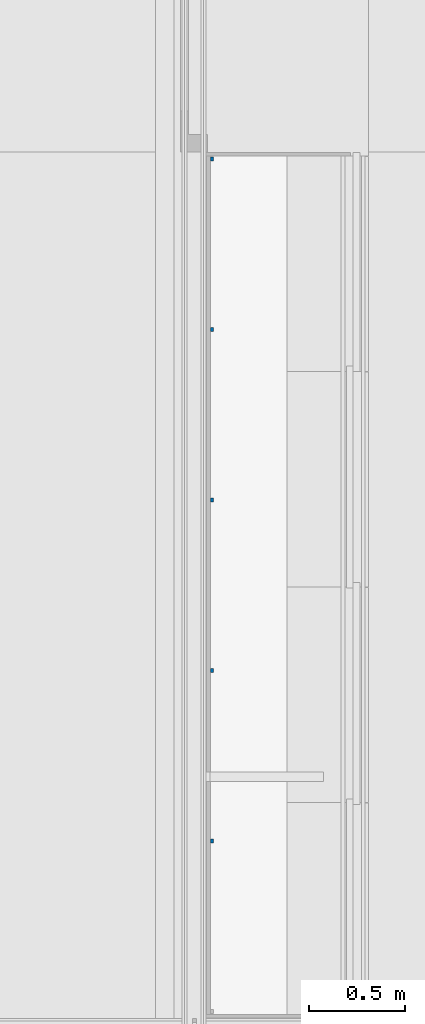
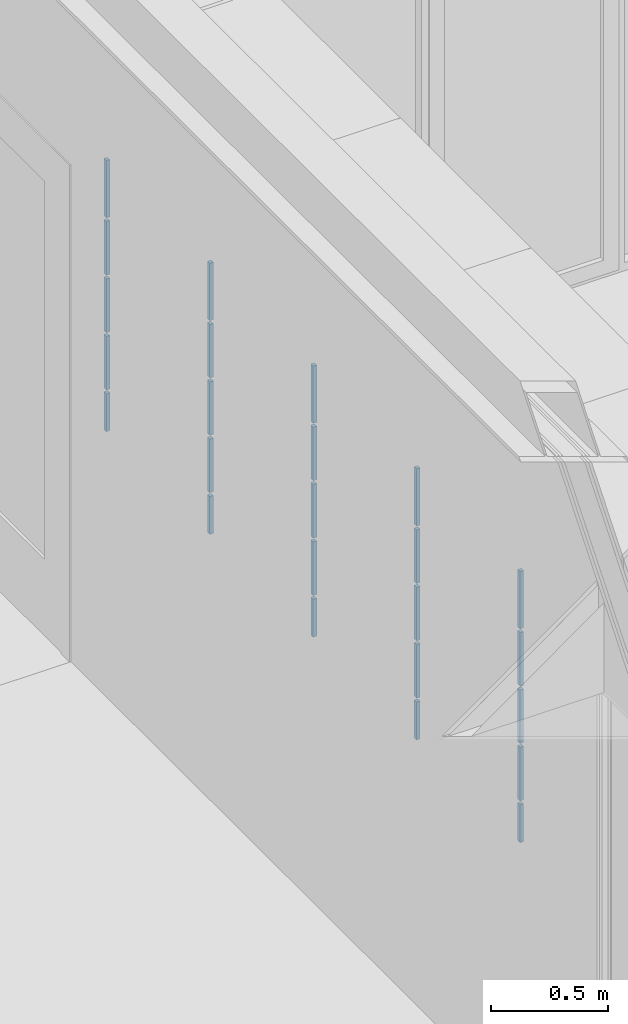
# One storey, part 7 of 165: 5 columns.
"""IFC2X3 building model written with IfcOpenShell, lengths in millimetres."""

from ifc_helpers import new_model, entity, si_unit, converted_unit, derived_unit, money_unit, direction, frame, origin_with_axes, place, context, subcontext, project, spatial, faceted_brep, material, type_object, element, save


model = new_model("IFC2X3")

# Units and contexts
model_context = context("Model", 3, precision=0.01, world=origin_with_axes(), true_north=direction((0.0, 1.0)))
body_context = subcontext(model_context, "Body", "Model", "MODEL_VIEW")
ifc_project = project(units=[si_unit("LENGTHUNIT", "METRE", prefix="MILLI"), si_unit("AREAUNIT", "SQUARE_METRE"), si_unit("VOLUMEUNIT", "CUBIC_METRE"), converted_unit("PLANEANGLEUNIT", "DEGREE", entity("IfcPlaneAngleMeasure", 0.0174532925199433), si_unit("PLANEANGLEUNIT", "RADIAN"), dimensions=[0, 0, 0, 0, 0, 0, 0]), money_unit("EUR"), converted_unit("TIMEUNIT", "Year", entity("IfcTimeMeasure", 31556926.0), si_unit("TIMEUNIT", "SECOND"), dimensions=[0, 0, 1, 0, 0, 0, 0]), si_unit("MASSUNIT", "GRAM", prefix="KILO"), si_unit("THERMODYNAMICTEMPERATUREUNIT", "DEGREE_CELSIUS"), si_unit("LUMINOUSINTENSITYUNIT", "LUMEN"), si_unit("ENERGYUNIT", "JOULE", prefix="MEGA"), derived_unit("THERMALCONDUCTANCEUNIT", [(si_unit("POWERUNIT", "WATT"), 1), (si_unit("LENGTHUNIT", "METRE"), -1), (si_unit("THERMODYNAMICTEMPERATUREUNIT", "KELVIN"), -1)]), derived_unit("SPECIFICHEATCAPACITYUNIT", [(si_unit("ENERGYUNIT", "JOULE"), 1), (si_unit("MASSUNIT", "GRAM", prefix="KILO"), -1), (si_unit("THERMODYNAMICTEMPERATUREUNIT", "KELVIN"), -1)]), derived_unit("MASSDENSITYUNIT", [(si_unit("MASSUNIT", "GRAM", prefix="KILO"), 1), (si_unit("VOLUMEUNIT", "CUBIC_METRE"), -1)])], contexts=[model_context])

# Site, building, storey
site_placement = place(None, origin_with_axes())
site = spatial("IfcSite", under=ifc_project, at=site_placement, Name="Site", CompositionType="ELEMENT")
building_placement = place(site_placement, origin_with_axes())
building = spatial("IfcBuilding", under=site, at=building_placement, Name="Naam gebouw", CompositionType="ELEMENT")
storey_placement = place(building_placement, origin_with_axes())
storey = spatial("IfcBuildingStorey", under=building, at=storey_placement, Name="Begane grond", CompositionType="ELEMENT", Elevation=0.0)

# Columns
ifc_material = material(Name="ALG - ALGEMEEN")
column_type = type_object("IfcColumnType", Name="ALG - ALGEMEEN 20 x 20", PredefinedType="COLUMN")
column_1_placement = place(storey_placement, frame((17792.49942456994, 25134.99984707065, 1182.0), z_axis=(0.0, 0.0, 1.0), x_axis=(1.0, 0.0, 0.0)))
element("IfcColumn", 1, at=column_1_placement, inside=storey, type_object=column_type, material=ifc_material, Name="28_Kolom-x", ObjectType="COLUMN", context=body_context, shape_type="Brep", body=[
    faceted_brep([(-8.000000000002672, 9.99999999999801, 0.0), (-8.000000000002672, 9.99999999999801, 197.9999999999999), (9.99999999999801, 9.99999999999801, 197.9999999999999), (9.99999999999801, 9.99999999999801, 0.0), (-8.000000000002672, -10.00000000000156, 0.0), (-8.000000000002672, -10.00000000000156, 197.9999999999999), (9.99999999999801, -10.00000000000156, 197.9999999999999), (9.99999999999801, -10.00000000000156, 0.0)], [[[0, 1, 2, 3]], [[4, 5, 1, 0]], [[5, 6, 2, 1]], [[3, 2, 6, 7]], [[3, 7, 4, 0]], [[7, 6, 5, 4]]]),
    faceted_brep([(9.99999999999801, -10.00000000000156, 1418.0), (9.99999999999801, -10.00000000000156, 1118.0), (9.99999999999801, 9.99999999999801, 1118.0), (9.99999999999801, 9.99999999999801, 1418.0), (-8.000000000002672, -10.00000000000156, 1418.0), (-8.000000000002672, -10.00000000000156, 1118.0), (-8.000000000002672, 9.99999999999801, 1118.0), (-8.000000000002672, 9.99999999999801, 1418.0)], [[[0, 1, 2, 3]], [[4, 5, 1, 0]], [[5, 6, 2, 1]], [[3, 2, 6, 7]], [[0, 3, 7, 4]], [[7, 6, 5, 4]]]),
    faceted_brep([(9.99999999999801, -10.00000000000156, 1098.0), (9.99999999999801, -10.00000000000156, 818.0000000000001), (9.99999999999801, 9.99999999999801, 818.0000000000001), (9.99999999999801, 9.99999999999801, 1098.0), (-8.000000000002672, -10.00000000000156, 1098.0), (-8.000000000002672, -10.00000000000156, 818.0000000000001), (-8.000000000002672, 9.99999999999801, 818.0000000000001), (-8.000000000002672, 9.99999999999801, 1098.0)], [[[0, 1, 2, 3]], [[4, 5, 1, 0]], [[5, 6, 2, 1]], [[3, 2, 6, 7]], [[4, 0, 3, 7]], [[7, 6, 5, 4]]]),
    faceted_brep([(9.99999999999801, -10.00000000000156, 798.0), (9.99999999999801, -10.00000000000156, 518.0), (9.99999999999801, 9.99999999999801, 518.0), (9.99999999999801, 9.99999999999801, 798.0), (-8.000000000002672, -10.00000000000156, 798.0), (-8.000000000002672, -10.00000000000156, 518.0), (-8.000000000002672, 9.99999999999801, 518.0), (-8.000000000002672, 9.99999999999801, 798.0)], [[[0, 1, 2, 3]], [[4, 5, 1, 0]], [[5, 6, 2, 1]], [[3, 2, 6, 7]], [[4, 0, 3, 7]], [[7, 6, 5, 4]]]),
    faceted_brep([(9.99999999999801, -10.00000000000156, 498.0), (9.99999999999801, -10.00000000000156, 218.0), (9.99999999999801, 9.99999999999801, 218.0), (9.99999999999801, 9.99999999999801, 498.0), (-8.000000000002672, -10.00000000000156, 498.0), (-8.000000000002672, -10.00000000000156, 218.0), (-8.000000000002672, 9.99999999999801, 218.0), (-8.000000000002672, 9.99999999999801, 498.0)], [[[0, 1, 2, 3]], [[4, 5, 1, 0]], [[5, 6, 2, 1]], [[3, 2, 6, 7]], [[4, 0, 3, 7]], [[7, 6, 5, 4]]]),
])
column_2_placement = place(storey_placement, frame((17792.49942456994, 26020.99984707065, 1182.0), z_axis=(0.0, 0.0, 1.0), x_axis=(1.0, 0.0, 0.0)))
element("IfcColumn", 2, at=column_2_placement, inside=storey, type_object=column_type, material=ifc_material, Name="28_Kolom-x", ObjectType="COLUMN", context=body_context, shape_type="Brep", body=[
    faceted_brep([(-8.000000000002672, 9.99999999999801, 0.0), (-8.000000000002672, 9.99999999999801, 197.9999999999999), (9.99999999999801, 9.99999999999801, 197.9999999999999), (9.99999999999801, 9.99999999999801, 0.0), (-8.000000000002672, -10.00000000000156, 0.0), (-8.000000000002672, -10.00000000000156, 197.9999999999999), (9.99999999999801, -10.00000000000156, 197.9999999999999), (9.99999999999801, -10.00000000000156, 0.0)], [[[0, 1, 2, 3]], [[4, 5, 1, 0]], [[5, 6, 2, 1]], [[3, 2, 6, 7]], [[3, 7, 4, 0]], [[7, 6, 5, 4]]]),
    faceted_brep([(9.99999999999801, -10.00000000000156, 1418.0), (9.99999999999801, -10.00000000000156, 1118.0), (9.99999999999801, 9.99999999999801, 1118.0), (9.99999999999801, 9.99999999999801, 1418.0), (-8.000000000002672, -10.00000000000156, 1418.0), (-8.000000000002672, -10.00000000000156, 1118.0), (-8.000000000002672, 9.99999999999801, 1118.0), (-8.000000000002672, 9.99999999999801, 1418.0)], [[[0, 1, 2, 3]], [[4, 5, 1, 0]], [[5, 6, 2, 1]], [[3, 2, 6, 7]], [[0, 3, 7, 4]], [[7, 6, 5, 4]]]),
    faceted_brep([(9.99999999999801, -10.00000000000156, 1098.0), (9.99999999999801, -10.00000000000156, 818.0000000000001), (9.99999999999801, 9.99999999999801, 818.0000000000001), (9.99999999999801, 9.99999999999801, 1098.0), (-8.000000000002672, -10.00000000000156, 1098.0), (-8.000000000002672, -10.00000000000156, 818.0000000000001), (-8.000000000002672, 9.99999999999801, 818.0000000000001), (-8.000000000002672, 9.99999999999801, 1098.0)], [[[0, 1, 2, 3]], [[4, 5, 1, 0]], [[5, 6, 2, 1]], [[3, 2, 6, 7]], [[4, 0, 3, 7]], [[7, 6, 5, 4]]]),
    faceted_brep([(9.99999999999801, -10.00000000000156, 798.0), (9.99999999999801, -10.00000000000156, 518.0), (9.99999999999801, 9.99999999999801, 518.0), (9.99999999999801, 9.99999999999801, 798.0), (-8.000000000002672, -10.00000000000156, 798.0), (-8.000000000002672, -10.00000000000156, 518.0), (-8.000000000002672, 9.99999999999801, 518.0), (-8.000000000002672, 9.99999999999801, 798.0)], [[[0, 1, 2, 3]], [[4, 5, 1, 0]], [[5, 6, 2, 1]], [[3, 2, 6, 7]], [[4, 0, 3, 7]], [[7, 6, 5, 4]]]),
    faceted_brep([(9.99999999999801, -10.00000000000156, 498.0), (9.99999999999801, -10.00000000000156, 218.0), (9.99999999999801, 9.99999999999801, 218.0), (9.99999999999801, 9.99999999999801, 498.0), (-8.000000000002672, -10.00000000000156, 498.0), (-8.000000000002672, -10.00000000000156, 218.0), (-8.000000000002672, 9.99999999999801, 218.0), (-8.000000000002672, 9.99999999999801, 498.0)], [[[0, 1, 2, 3]], [[4, 5, 1, 0]], [[5, 6, 2, 1]], [[3, 2, 6, 7]], [[4, 0, 3, 7]], [[7, 6, 5, 4]]]),
])
column_3_placement = place(storey_placement, frame((17792.49942456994, 26906.99984707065, 1182.0), z_axis=(0.0, 0.0, 1.0), x_axis=(1.0, 0.0, 0.0)))
element("IfcColumn", 3, at=column_3_placement, inside=storey, type_object=column_type, material=ifc_material, Name="28_Kolom-x", ObjectType="COLUMN", context=body_context, shape_type="Brep", body=[
    faceted_brep([(-8.000000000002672, 9.99999999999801, 0.0), (-8.000000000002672, 9.99999999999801, 197.9999999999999), (9.99999999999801, 9.99999999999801, 197.9999999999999), (9.99999999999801, 9.99999999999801, 0.0), (-8.000000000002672, -10.00000000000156, 0.0), (-8.000000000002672, -10.00000000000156, 197.9999999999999), (9.99999999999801, -10.00000000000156, 197.9999999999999), (9.99999999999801, -10.00000000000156, 0.0)], [[[0, 1, 2, 3]], [[4, 5, 1, 0]], [[5, 6, 2, 1]], [[3, 2, 6, 7]], [[3, 7, 4, 0]], [[7, 6, 5, 4]]]),
    faceted_brep([(9.99999999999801, -10.00000000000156, 1418.0), (9.99999999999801, -10.00000000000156, 1118.0), (9.99999999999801, 9.99999999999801, 1118.0), (9.99999999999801, 9.99999999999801, 1418.0), (-8.000000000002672, -10.00000000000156, 1418.0), (-8.000000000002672, -10.00000000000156, 1118.0), (-8.000000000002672, 9.99999999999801, 1118.0), (-8.000000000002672, 9.99999999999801, 1418.0)], [[[0, 1, 2, 3]], [[4, 5, 1, 0]], [[5, 6, 2, 1]], [[3, 2, 6, 7]], [[0, 3, 7, 4]], [[7, 6, 5, 4]]]),
    faceted_brep([(9.99999999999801, -10.00000000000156, 1098.0), (9.99999999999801, -10.00000000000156, 818.0000000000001), (9.99999999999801, 9.99999999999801, 818.0000000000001), (9.99999999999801, 9.99999999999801, 1098.0), (-8.000000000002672, -10.00000000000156, 1098.0), (-8.000000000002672, -10.00000000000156, 818.0000000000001), (-8.000000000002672, 9.99999999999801, 818.0000000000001), (-8.000000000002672, 9.99999999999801, 1098.0)], [[[0, 1, 2, 3]], [[4, 5, 1, 0]], [[5, 6, 2, 1]], [[3, 2, 6, 7]], [[4, 0, 3, 7]], [[7, 6, 5, 4]]]),
    faceted_brep([(9.99999999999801, -10.00000000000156, 798.0), (9.99999999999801, -10.00000000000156, 518.0), (9.99999999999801, 9.99999999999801, 518.0), (9.99999999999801, 9.99999999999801, 798.0), (-8.000000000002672, -10.00000000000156, 798.0), (-8.000000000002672, -10.00000000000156, 518.0), (-8.000000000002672, 9.99999999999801, 518.0), (-8.000000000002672, 9.99999999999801, 798.0)], [[[0, 1, 2, 3]], [[4, 5, 1, 0]], [[5, 6, 2, 1]], [[3, 2, 6, 7]], [[4, 0, 3, 7]], [[7, 6, 5, 4]]]),
    faceted_brep([(9.99999999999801, -10.00000000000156, 498.0), (9.99999999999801, -10.00000000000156, 218.0), (9.99999999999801, 9.99999999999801, 218.0), (9.99999999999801, 9.99999999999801, 498.0), (-8.000000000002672, -10.00000000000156, 498.0), (-8.000000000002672, -10.00000000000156, 218.0), (-8.000000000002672, 9.99999999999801, 218.0), (-8.000000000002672, 9.99999999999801, 498.0)], [[[0, 1, 2, 3]], [[4, 5, 1, 0]], [[5, 6, 2, 1]], [[3, 2, 6, 7]], [[4, 0, 3, 7]], [[7, 6, 5, 4]]]),
])
column_4_placement = place(storey_placement, frame((17792.49942456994, 27792.99984707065, 1182.0), z_axis=(0.0, 0.0, 1.0), x_axis=(1.0, 0.0, 0.0)))
element("IfcColumn", 4, at=column_4_placement, inside=storey, type_object=column_type, material=ifc_material, Name="28_Kolom-x", ObjectType="COLUMN", context=body_context, shape_type="Brep", body=[
    faceted_brep([(-8.000000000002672, 9.99999999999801, 0.0), (-8.000000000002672, 9.99999999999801, 197.9999999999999), (9.99999999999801, 9.99999999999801, 197.9999999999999), (9.99999999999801, 9.99999999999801, 0.0), (-8.000000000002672, -10.00000000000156, 0.0), (-8.000000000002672, -10.00000000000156, 197.9999999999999), (9.99999999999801, -10.00000000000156, 197.9999999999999), (9.99999999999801, -10.00000000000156, 0.0)], [[[0, 1, 2, 3]], [[4, 5, 1, 0]], [[5, 6, 2, 1]], [[3, 2, 6, 7]], [[3, 7, 4, 0]], [[7, 6, 5, 4]]]),
    faceted_brep([(9.99999999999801, -10.00000000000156, 1418.0), (9.99999999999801, -10.00000000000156, 1118.0), (9.99999999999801, 9.99999999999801, 1118.0), (9.99999999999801, 9.99999999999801, 1418.0), (-8.000000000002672, -10.00000000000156, 1418.0), (-8.000000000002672, -10.00000000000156, 1118.0), (-8.000000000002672, 9.99999999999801, 1118.0), (-8.000000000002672, 9.99999999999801, 1418.0)], [[[0, 1, 2, 3]], [[4, 5, 1, 0]], [[5, 6, 2, 1]], [[3, 2, 6, 7]], [[0, 3, 7, 4]], [[7, 6, 5, 4]]]),
    faceted_brep([(9.99999999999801, -10.00000000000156, 1098.0), (9.99999999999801, -10.00000000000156, 818.0000000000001), (9.99999999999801, 9.99999999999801, 818.0000000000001), (9.99999999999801, 9.99999999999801, 1098.0), (-8.000000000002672, -10.00000000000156, 1098.0), (-8.000000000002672, -10.00000000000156, 818.0000000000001), (-8.000000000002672, 9.99999999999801, 818.0000000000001), (-8.000000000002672, 9.99999999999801, 1098.0)], [[[0, 1, 2, 3]], [[4, 5, 1, 0]], [[5, 6, 2, 1]], [[3, 2, 6, 7]], [[4, 0, 3, 7]], [[7, 6, 5, 4]]]),
    faceted_brep([(9.99999999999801, -10.00000000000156, 798.0), (9.99999999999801, -10.00000000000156, 518.0), (9.99999999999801, 9.99999999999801, 518.0), (9.99999999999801, 9.99999999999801, 798.0), (-8.000000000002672, -10.00000000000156, 798.0), (-8.000000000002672, -10.00000000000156, 518.0), (-8.000000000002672, 9.99999999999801, 518.0), (-8.000000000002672, 9.99999999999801, 798.0)], [[[0, 1, 2, 3]], [[4, 5, 1, 0]], [[5, 6, 2, 1]], [[3, 2, 6, 7]], [[4, 0, 3, 7]], [[7, 6, 5, 4]]]),
    faceted_brep([(9.99999999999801, -10.00000000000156, 498.0), (9.99999999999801, -10.00000000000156, 218.0), (9.99999999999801, 9.99999999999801, 218.0), (9.99999999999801, 9.99999999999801, 498.0), (-8.000000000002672, -10.00000000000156, 498.0), (-8.000000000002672, -10.00000000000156, 218.0), (-8.000000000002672, 9.99999999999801, 218.0), (-8.000000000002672, 9.99999999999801, 498.0)], [[[0, 1, 2, 3]], [[4, 5, 1, 0]], [[5, 6, 2, 1]], [[3, 2, 6, 7]], [[4, 0, 3, 7]], [[7, 6, 5, 4]]]),
])
column_5_placement = place(storey_placement, frame((17792.49942456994, 24248.99984707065, 1182.0), z_axis=(0.0, 0.0, 1.0), x_axis=(1.0, 0.0, 0.0)))
element("IfcColumn", 5, at=column_5_placement, inside=storey, type_object=column_type, material=ifc_material, Name="28_Kolom-x", ObjectType="COLUMN", context=body_context, shape_type="Brep", body=[
    faceted_brep([(-8.000000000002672, 9.99999999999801, 0.0), (-8.000000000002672, 9.99999999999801, 197.9999999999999), (9.99999999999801, 9.99999999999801, 197.9999999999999), (9.99999999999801, 9.99999999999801, 0.0), (-8.000000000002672, -10.00000000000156, 0.0), (-8.000000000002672, -10.00000000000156, 197.9999999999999), (9.99999999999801, -10.00000000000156, 197.9999999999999), (9.99999999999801, -10.00000000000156, 0.0)], [[[0, 1, 2, 3]], [[4, 5, 1, 0]], [[5, 6, 2, 1]], [[3, 2, 6, 7]], [[3, 7, 4, 0]], [[7, 6, 5, 4]]]),
    faceted_brep([(9.99999999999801, -10.00000000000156, 1418.0), (9.99999999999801, -10.00000000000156, 1118.0), (9.99999999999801, 9.99999999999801, 1118.0), (9.99999999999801, 9.99999999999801, 1418.0), (-8.000000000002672, -10.00000000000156, 1418.0), (-8.000000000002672, -10.00000000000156, 1118.0), (-8.000000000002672, 9.99999999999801, 1118.0), (-8.000000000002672, 9.99999999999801, 1418.0)], [[[0, 1, 2, 3]], [[4, 5, 1, 0]], [[5, 6, 2, 1]], [[3, 2, 6, 7]], [[0, 3, 7, 4]], [[7, 6, 5, 4]]]),
    faceted_brep([(9.99999999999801, -10.00000000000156, 1098.0), (9.99999999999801, -10.00000000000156, 818.0000000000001), (9.99999999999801, 9.99999999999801, 818.0000000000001), (9.99999999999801, 9.99999999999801, 1098.0), (-8.000000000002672, -10.00000000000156, 1098.0), (-8.000000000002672, -10.00000000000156, 818.0000000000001), (-8.000000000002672, 9.99999999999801, 818.0000000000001), (-8.000000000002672, 9.99999999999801, 1098.0)], [[[0, 1, 2, 3]], [[4, 5, 1, 0]], [[5, 6, 2, 1]], [[3, 2, 6, 7]], [[4, 0, 3, 7]], [[7, 6, 5, 4]]]),
    faceted_brep([(9.99999999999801, -10.00000000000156, 798.0), (9.99999999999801, -10.00000000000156, 518.0), (9.99999999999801, 9.99999999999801, 518.0), (9.99999999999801, 9.99999999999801, 798.0), (-8.000000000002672, -10.00000000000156, 798.0), (-8.000000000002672, -10.00000000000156, 518.0), (-8.000000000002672, 9.99999999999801, 518.0), (-8.000000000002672, 9.99999999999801, 798.0)], [[[0, 1, 2, 3]], [[4, 5, 1, 0]], [[5, 6, 2, 1]], [[3, 2, 6, 7]], [[4, 0, 3, 7]], [[7, 6, 5, 4]]]),
    faceted_brep([(9.99999999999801, -10.00000000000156, 498.0), (9.99999999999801, -10.00000000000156, 218.0), (9.99999999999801, 9.99999999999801, 218.0), (9.99999999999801, 9.99999999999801, 498.0), (-8.000000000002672, -10.00000000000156, 498.0), (-8.000000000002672, -10.00000000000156, 218.0), (-8.000000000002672, 9.99999999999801, 218.0), (-8.000000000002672, 9.99999999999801, 498.0)], [[[0, 1, 2, 3]], [[4, 5, 1, 0]], [[5, 6, 2, 1]], [[3, 2, 6, 7]], [[4, 0, 3, 7]], [[7, 6, 5, 4]]]),
])

save(model, "model.ifc")
